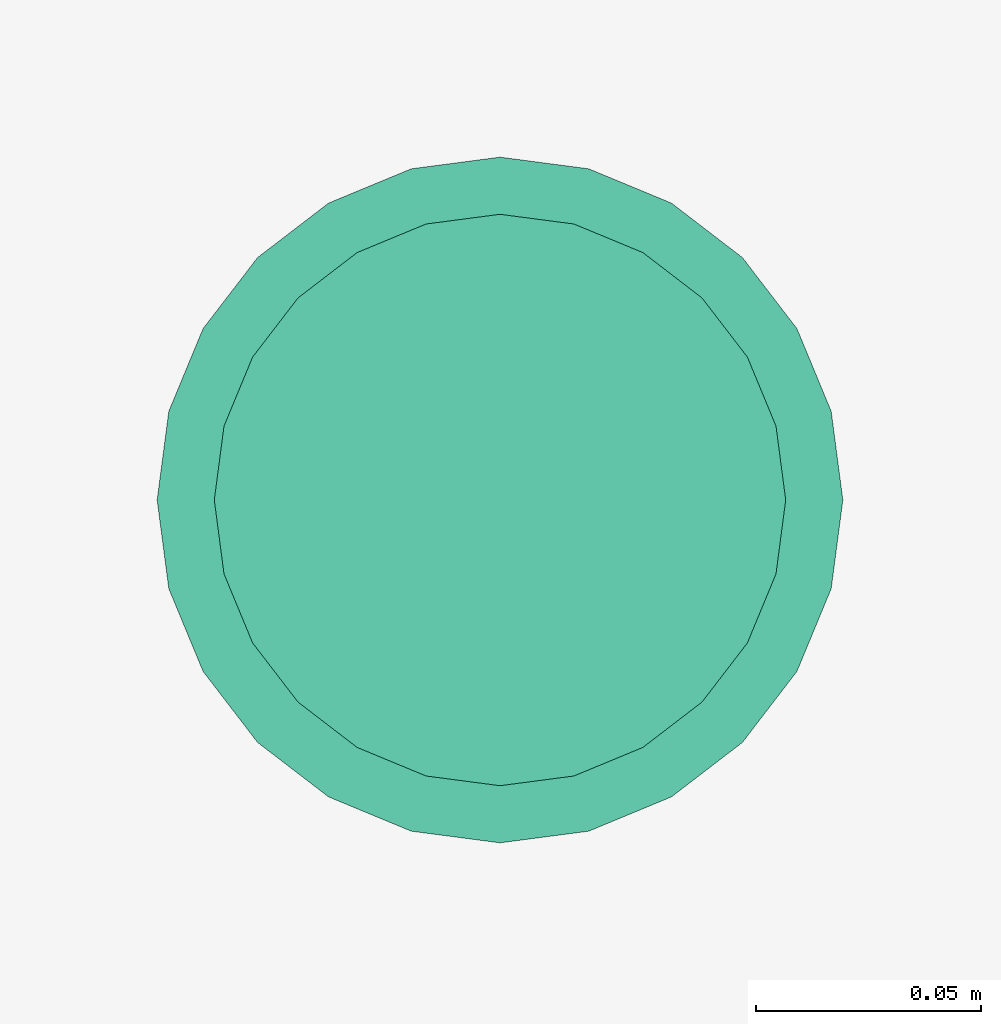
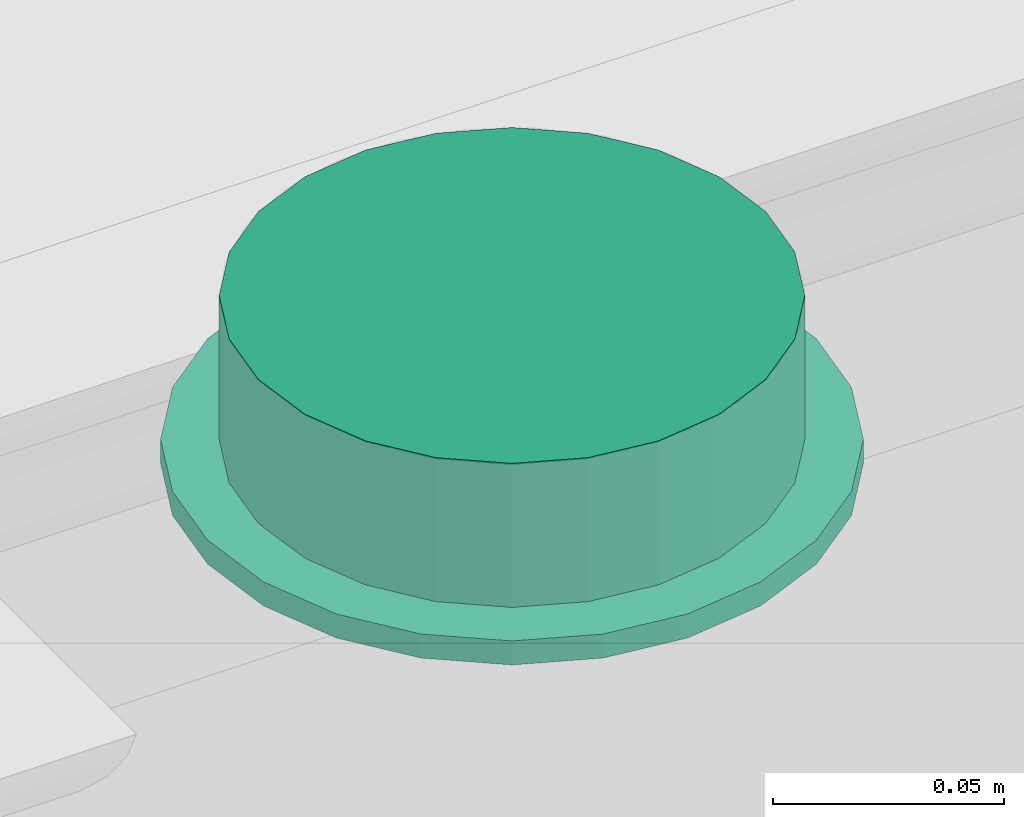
# One storey, part 47 of 81: 1 flow terminal.
"""IFC2X3 building model written with IfcOpenShell, lengths in feet."""

from ifc_helpers import new_model, entity, si_unit, converted_unit, derived_unit, direction, frame, origin, place, context, subcontext, project, spatial, faceted_brep, source, transform, mapped, material, material_list, type_object, type_shapes, element, save


model = new_model("IFC2X3")

# Units and contexts
model_context = context("Model", 3, precision=0.0001, world=origin(), true_north=direction((6.12303176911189e-17, 1.0)))
body_context = subcontext(model_context, "Body", "Model", "MODEL_VIEW")
ifc_project = project(units=[converted_unit("LENGTHUNIT", "FOOT", entity("IfcRatioMeasure", 0.3048), si_unit("LENGTHUNIT", "METRE"), dimensions=[1, 0, 0, 0, 0, 0, 0]), converted_unit("AREAUNIT", "SQUARE FOOT", entity("IfcRatioMeasure", 0.09290304), si_unit("AREAUNIT", "SQUARE_METRE"), dimensions=[2, 0, 0, 0, 0, 0, 0]), converted_unit("VOLUMEUNIT", "CUBIC FOOT", entity("IfcRatioMeasure", 0.028316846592), si_unit("VOLUMEUNIT", "CUBIC_METRE"), dimensions=[3, 0, 0, 0, 0, 0, 0]), converted_unit("PLANEANGLEUNIT", "DEGREE", entity("IfcRatioMeasure", 0.0174532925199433), si_unit("PLANEANGLEUNIT", "RADIAN"), dimensions=[0, 0, 0, 0, 0, 0, 0]), si_unit("MASSUNIT", "GRAM", prefix="KILO"), derived_unit("MASSDENSITYUNIT", [(si_unit("MASSUNIT", "GRAM", prefix="KILO"), 1), (si_unit("LENGTHUNIT", "METRE"), -3)]), derived_unit("MOMENTOFINERTIAUNIT", [(si_unit("LENGTHUNIT", "METRE"), 4)]), si_unit("TIMEUNIT", "SECOND"), si_unit("FREQUENCYUNIT", "HERTZ"), si_unit("THERMODYNAMICTEMPERATUREUNIT", "DEGREE_CELSIUS"), derived_unit("THERMALTRANSMITTANCEUNIT", [(si_unit("MASSUNIT", "GRAM", prefix="KILO"), 1), (si_unit("THERMODYNAMICTEMPERATUREUNIT", "KELVIN"), -1), (si_unit("TIMEUNIT", "SECOND"), -3)]), derived_unit("VOLUMETRICFLOWRATEUNIT", [(si_unit("LENGTHUNIT", "METRE"), 3), (si_unit("TIMEUNIT", "SECOND"), -1)]), si_unit("ELECTRICCURRENTUNIT", "AMPERE"), si_unit("ELECTRICVOLTAGEUNIT", "VOLT"), si_unit("POWERUNIT", "WATT"), si_unit("FORCEUNIT", "NEWTON"), si_unit("ILLUMINANCEUNIT", "LUX"), si_unit("LUMINOUSFLUXUNIT", "LUMEN"), si_unit("LUMINOUSINTENSITYUNIT", "CANDELA"), derived_unit("USERDEFINED", [(si_unit("MASSUNIT", "GRAM", prefix="KILO"), -1), (si_unit("LENGTHUNIT", "METRE"), -2), (si_unit("TIMEUNIT", "SECOND"), 3), (si_unit("LUMINOUSFLUXUNIT", "LUMEN"), 1)]), derived_unit("LINEARVELOCITYUNIT", [(si_unit("LENGTHUNIT", "METRE"), 1), (si_unit("TIMEUNIT", "SECOND"), -1)]), si_unit("PRESSUREUNIT", "PASCAL"), derived_unit("USERDEFINED", [(si_unit("LENGTHUNIT", "METRE"), -2), (si_unit("MASSUNIT", "GRAM", prefix="KILO"), 1), (si_unit("TIMEUNIT", "SECOND"), -2)]), derived_unit("LINEARFORCEUNIT", [(si_unit("MASSUNIT", "GRAM", prefix="KILO"), 1), (si_unit("LENGTHUNIT", "METRE"), 1), (si_unit("TIMEUNIT", "SECOND"), -2), (si_unit("LENGTHUNIT", "METRE"), -1)]), derived_unit("PLANARFORCEUNIT", [(si_unit("MASSUNIT", "GRAM", prefix="KILO"), 1), (si_unit("LENGTHUNIT", "METRE"), 1), (si_unit("TIMEUNIT", "SECOND"), -2), (si_unit("LENGTHUNIT", "METRE"), -2)])], contexts=[model_context])

# Site, building, storey
site_placement = place(None, origin())
site = spatial("IfcSite", under=ifc_project, at=site_placement, Name="Default", CompositionType="ELEMENT")
building_placement = place(site_placement, origin())
building = spatial("IfcBuilding", under=site, at=building_placement, CompositionType="ELEMENT")
storey_placement = place(building_placement, origin())
storey = spatial("IfcBuildingStorey", under=building, at=storey_placement, Name="First floor", CompositionType="ELEMENT", Elevation=0.0)

# Flow terminal
ifc_material_1 = material(Name="Default New Material")
ifc_material_2 = material(Name="Glass, White, High Luminance")
ifc_material_list_1 = material_list([ifc_material_1, ifc_material_2])
ifc_material_list_2 = material_list([ifc_material_1, ifc_material_2])
light_fixture_type = type_object("IfcLightFixtureType", Name="M_Recessed Lamp - Round - LED:Light 2", PredefinedType="NOTDEFINED", material=ifc_material_list_2)
shared_shape = source(origin(), body_context, "Body", "Brep", [
    faceted_brep([(-0.124999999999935, 0.216506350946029, 0.0208333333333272), (-0.176776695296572, 0.176776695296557, 0.0208333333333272), (-0.0833333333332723, 0.144337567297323, 0.0208333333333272), (-0.0431365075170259, 0.160987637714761, 0.0208333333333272), (-0.0647047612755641, 0.241481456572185, 0.0208333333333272), (-0.117851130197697, 0.117851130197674, 0.0208333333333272), (-0.216506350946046, 0.12499999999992, 0.0208333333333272), (-0.144337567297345, 0.0833333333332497, 0.0208333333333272), (-0.160987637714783, 0.0431365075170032, 0.0208333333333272), (-0.241481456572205, 0.0647047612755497, 0.0208333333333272), (-0.166666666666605, 0.0, 0.0208333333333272), (-0.249999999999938, 0.0, 0.0208333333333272), (-0.160987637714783, -0.0431365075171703, 0.0208333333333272), (-0.241481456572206, -0.0647047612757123, 0.0208333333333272), (-0.144337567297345, -0.0833333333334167, 0.0208333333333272), (-0.216506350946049, -0.125000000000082, 0.0208333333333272), (-0.117851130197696, -0.117851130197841, 0.0208333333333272), (-0.176776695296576, -0.176776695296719, 0.0208333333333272), (-0.0833333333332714, -0.14433756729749, 0.0208333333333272), (-0.12499999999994, -0.216506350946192, 0.0208333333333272), (-0.0431365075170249, -0.160987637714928, 0.0208333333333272), (-0.0647047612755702, -0.24148145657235, 0.0208333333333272), (0.0, -0.16666666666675, 0.0208333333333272), (0.0, -0.250000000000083, 0.0208333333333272), (0.0431365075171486, -0.160987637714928, 0.0208333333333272), (0.0647047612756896, -0.241481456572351, 0.0208333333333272), (0.0833333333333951, -0.144337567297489, 0.0208333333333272), (0.12500000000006, -0.216506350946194, 0.0208333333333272), (0.11785113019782, -0.117851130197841, 0.0208333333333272), (0.176776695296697, -0.176776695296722, 0.0208333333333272), (0.144337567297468, -0.0833333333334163, 0.0208333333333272), (0.21650635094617, -0.125000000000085, 0.0208333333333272), (0.241481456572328, -0.0647047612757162, 0.0208333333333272), (0.160987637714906, -0.0431365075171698, 0.0208333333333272), (0.250000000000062, 0.0, 0.0208333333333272), (0.166666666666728, 0.0, 0.0208333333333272), (0.241481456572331, 0.06470476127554, 0.0208333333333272), (0.160987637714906, 0.0431365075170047, 0.0208333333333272), (0.216506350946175, 0.124999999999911, 0.0208333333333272), (0.144337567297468, 0.0833333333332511, 0.0208333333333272), (0.176776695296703, 0.176776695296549, 0.0208333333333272), (0.117851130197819, 0.117851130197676, 0.0208333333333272), (0.125000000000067, 0.216506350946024, 0.0208333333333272), (0.0833333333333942, 0.144337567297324, 0.0208333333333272), (0.0647047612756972, 0.241481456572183, 0.0208333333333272), (0.0431365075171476, 0.160987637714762, 0.0208333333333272), (0.0, 0.249999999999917, 0.0208333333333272), (0.0, 0.166666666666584, 0.0208333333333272), (-0.12499999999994, -0.216506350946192, 0.0), (-0.176776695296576, -0.176776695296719, 0.0), (-0.0833333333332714, -0.14433756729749, 0.0), (-0.0431365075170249, -0.160987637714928, 0.0), (-0.0647047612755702, -0.24148145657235, 0.0), (-0.117851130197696, -0.117851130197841, 0.0), (-0.216506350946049, -0.125000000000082, 0.0), (-0.144337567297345, -0.0833333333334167, 0.0), (-0.160987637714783, -0.0431365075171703, 0.0), (-0.241481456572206, -0.0647047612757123, 0.0), (-0.166666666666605, 0.0, 0.0), (-0.249999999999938, 0.0, 0.0), (-0.160987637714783, 0.0431365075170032, 0.0), (-0.241481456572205, 0.0647047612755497, 0.0), (-0.144337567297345, 0.0833333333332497, 0.0), (-0.216506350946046, 0.12499999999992, 0.0), (-0.117851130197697, 0.117851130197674, 0.0), (-0.176776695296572, 0.176776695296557, 0.0), (-0.0833333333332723, 0.144337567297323, 0.0), (-0.124999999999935, 0.216506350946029, 0.0), (-0.0431365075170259, 0.160987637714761, 0.0), (-0.0647047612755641, 0.241481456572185, 0.0), (0.0, 0.166666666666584, 0.0), (0.0, 0.249999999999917, 0.0), (0.0431365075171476, 0.160987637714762, 0.0), (0.0647047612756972, 0.241481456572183, 0.0), (0.0833333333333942, 0.144337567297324, 0.0), (0.125000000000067, 0.216506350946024, 0.0), (0.117851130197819, 0.117851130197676, 0.0), (0.176776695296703, 0.176776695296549, 0.0), (0.144337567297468, 0.0833333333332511, 0.0), (0.216506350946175, 0.124999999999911, 0.0), (0.241481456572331, 0.06470476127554, 0.0), (0.160987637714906, 0.0431365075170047, 0.0), (0.250000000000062, 0.0, 0.0), (0.166666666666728, 0.0, 0.0), (0.241481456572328, -0.0647047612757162, 0.0), (0.160987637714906, -0.0431365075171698, 0.0), (0.21650635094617, -0.125000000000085, 0.0), (0.144337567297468, -0.0833333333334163, 0.0), (0.176776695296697, -0.176776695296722, 0.0), (0.11785113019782, -0.117851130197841, 0.0), (0.12500000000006, -0.216506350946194, 0.0), (0.0833333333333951, -0.144337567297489, 0.0), (0.0647047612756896, -0.241481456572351, 0.0), (0.0431365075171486, -0.160987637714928, 0.0), (0.0, -0.250000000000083, 0.0), (0.0, -0.16666666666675, 0.0)], [[[0, 1, 2]], [[0, 2, 3]], [[3, 4, 0]], [[2, 1, 5]], [[6, 5, 1]], [[7, 5, 6]], [[8, 7, 6]], [[8, 6, 9]], [[8, 9, 10]], [[10, 9, 11]], [[12, 10, 11]], [[12, 11, 13]], [[14, 12, 13]], [[14, 13, 15]], [[16, 14, 15]], [[15, 17, 16]], [[17, 18, 16]], [[18, 17, 19]], [[18, 19, 20]], [[21, 20, 19]], [[20, 21, 22]], [[22, 21, 23]], [[23, 24, 22]], [[24, 23, 25]], [[24, 25, 26]], [[27, 26, 25]], [[27, 28, 26]], [[27, 29, 28]], [[30, 28, 29]], [[31, 30, 29]], [[32, 30, 31]], [[33, 30, 32]], [[33, 32, 34]], [[34, 35, 33]], [[36, 35, 34]], [[36, 37, 35]], [[37, 36, 38]], [[39, 37, 38]], [[39, 38, 40]], [[39, 40, 41]], [[40, 42, 41]], [[41, 42, 43]], [[43, 42, 44]], [[44, 45, 43]], [[46, 45, 44]], [[4, 47, 46]], [[45, 46, 47]], [[4, 3, 47]], [[48, 49, 50]], [[48, 50, 51]], [[51, 52, 48]], [[50, 49, 53]], [[54, 53, 49]], [[55, 53, 54]], [[56, 55, 54]], [[56, 54, 57]], [[56, 57, 58]], [[58, 57, 59]], [[60, 58, 59]], [[60, 59, 61]], [[62, 60, 61]], [[62, 61, 63]], [[64, 62, 63]], [[63, 65, 64]], [[65, 66, 64]], [[66, 65, 67]], [[66, 67, 68]], [[69, 68, 67]], [[68, 69, 70]], [[70, 69, 71]], [[71, 72, 70]], [[72, 71, 73]], [[72, 73, 74]], [[75, 74, 73]], [[75, 76, 74]], [[75, 77, 76]], [[78, 76, 77]], [[79, 78, 77]], [[80, 78, 79]], [[81, 78, 80]], [[81, 80, 82]], [[82, 83, 81]], [[84, 83, 82]], [[84, 85, 83]], [[85, 84, 86]], [[87, 85, 86]], [[87, 86, 88]], [[87, 88, 89]], [[88, 90, 89]], [[89, 90, 91]], [[91, 90, 92]], [[92, 93, 91]], [[94, 93, 92]], [[52, 95, 94]], [[93, 94, 95]], [[52, 51, 95]], [[10, 58, 60, 8]], [[8, 60, 62, 7]], [[2, 5, 64, 66]], [[62, 64, 5, 7]], [[3, 2, 66, 68]], [[70, 47, 3, 68]], [[45, 72, 74, 43]], [[43, 74, 76, 41]], [[37, 39, 78, 81]], [[76, 78, 39, 41]], [[35, 37, 81, 83]], [[45, 47, 70, 72]], [[35, 83, 85, 33]], [[33, 85, 87, 30]], [[26, 28, 89, 91]], [[87, 89, 28, 30]], [[24, 26, 91, 93]], [[95, 22, 24, 93]], [[20, 51, 50, 18]], [[18, 50, 53, 16]], [[12, 14, 55, 56]], [[53, 55, 14, 16]], [[10, 12, 56, 58]], [[20, 22, 95, 51]], [[57, 13, 11, 59]], [[54, 15, 13, 57]], [[19, 17, 49, 48]], [[54, 49, 17, 15]], [[21, 19, 48, 52]], [[23, 21, 52, 94]], [[92, 25, 23, 94]], [[90, 27, 25, 92]], [[31, 29, 88, 86]], [[90, 88, 29, 27]], [[32, 31, 86, 84]], [[34, 32, 84, 82]], [[80, 36, 34, 82]], [[79, 38, 36, 80]], [[42, 40, 77, 75]], [[79, 77, 40, 38]], [[44, 42, 75, 73]], [[46, 44, 73, 71]], [[69, 4, 46, 71]], [[67, 0, 4, 69]], [[6, 1, 65, 63]], [[67, 65, 1, 0]], [[9, 6, 63, 61]], [[11, 9, 61, 59]]]),
    faceted_brep([(0.0431365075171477, -0.160987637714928, 0.0208333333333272), (0.0833333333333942, -0.14433756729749, 0.0208333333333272), (0.117851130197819, -0.117851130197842, 0.0208333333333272), (0.144337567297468, -0.0833333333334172, 0.0208333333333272), (0.160987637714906, -0.0431365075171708, 0.0208333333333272), (0.166666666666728, 0.0, 0.0208333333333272), (0.160987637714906, 0.0431365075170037, 0.0208333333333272), (0.144337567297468, 0.0833333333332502, 0.0208333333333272), (0.11785113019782, 0.117851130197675, 0.0208333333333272), (0.0833333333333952, 0.144337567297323, 0.0208333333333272), (0.0431365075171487, 0.160987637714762, 0.0208333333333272), (0.0, 0.166666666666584, 0.0208333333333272), (-0.0431365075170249, 0.160987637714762, 0.0208333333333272), (-0.0833333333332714, 0.144337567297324, 0.0208333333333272), (-0.117851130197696, 0.117851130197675, 0.0208333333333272), (-0.144337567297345, 0.0833333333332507, 0.0208333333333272), (-0.160987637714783, 0.0431365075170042, 0.0208333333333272), (-0.166666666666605, 0.0, 0.0208333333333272), (-0.160987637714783, -0.0431365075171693, 0.0208333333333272), (-0.144337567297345, -0.0833333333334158, 0.0208333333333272), (-0.117851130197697, -0.117851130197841, 0.0208333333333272), (-0.0833333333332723, -0.144337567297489, 0.0208333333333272), (-0.0431365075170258, -0.160987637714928, 0.0208333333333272), (0.0, -0.16666666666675, 0.0208333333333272), (0.0431365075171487, 0.160987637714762, 0.0), (0.0833333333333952, 0.144337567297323, 0.0), (0.11785113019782, 0.117851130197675, 0.0), (0.144337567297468, 0.0833333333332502, 0.0), (0.160987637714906, 0.0431365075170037, 0.0), (0.166666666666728, 0.0, 0.0), (0.160987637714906, -0.0431365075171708, 0.0), (0.144337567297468, -0.0833333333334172, 0.0), (0.117851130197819, -0.117851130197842, 0.0), (0.0833333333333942, -0.14433756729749, 0.0), (0.0431365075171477, -0.160987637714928, 0.0), (0.0, -0.16666666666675, 0.0), (-0.0431365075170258, -0.160987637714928, 0.0), (-0.0833333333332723, -0.144337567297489, 0.0), (-0.117851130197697, -0.117851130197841, 0.0), (-0.144337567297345, -0.0833333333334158, 0.0), (-0.160987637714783, -0.0431365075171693, 0.0), (-0.166666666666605, 0.0, 0.0), (-0.160987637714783, 0.0431365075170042, 0.0), (-0.144337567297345, 0.0833333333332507, 0.0), (-0.117851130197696, 0.117851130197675, 0.0), (-0.0833333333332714, 0.144337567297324, 0.0), (-0.0431365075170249, 0.160987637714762, 0.0), (0.0, 0.166666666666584, 0.0)], [[[0, 1, 2, 3, 4, 5, 6, 7, 8, 9, 10, 11, 12, 13, 14, 15, 16, 17, 18, 19, 20, 21, 22, 23]], [[24, 25, 26, 27, 28, 29, 30, 31, 32, 33, 34, 35, 36, 37, 38, 39, 40, 41, 42, 43, 44, 45, 46, 47]], [[40, 18, 17, 41]], [[39, 19, 18, 40]], [[21, 20, 38, 37]], [[39, 38, 20, 19]], [[22, 21, 37, 36]], [[23, 22, 36, 35]], [[34, 0, 23, 35]], [[33, 1, 0, 34]], [[3, 2, 32, 31]], [[33, 32, 2, 1]], [[4, 3, 31, 30]], [[5, 4, 30, 29]], [[28, 6, 5, 29]], [[27, 7, 6, 28]], [[9, 8, 26, 25]], [[27, 26, 8, 7]], [[10, 9, 25, 24]], [[11, 10, 24, 47]], [[46, 12, 11, 47]], [[45, 13, 12, 46]], [[15, 14, 44, 43]], [[45, 44, 14, 13]], [[16, 15, 43, 42]], [[17, 16, 42, 41]]]),
    faceted_brep([(0.0, -0.16666666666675, -0.104166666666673), (0.0431365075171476, -0.160987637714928, -0.104166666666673), (0.0833333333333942, -0.14433756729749, -0.104166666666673), (0.117851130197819, -0.117851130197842, -0.104166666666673), (0.144337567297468, -0.0833333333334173, -0.104166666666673), (0.160987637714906, -0.0431365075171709, -0.104166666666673), (0.166666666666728, 0.0, -0.104166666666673), (0.160987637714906, 0.0431365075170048, -0.104166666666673), (0.144337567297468, 0.0833333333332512, -0.104166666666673), (0.117851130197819, 0.117851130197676, -0.104166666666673), (0.0833333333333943, 0.144337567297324, -0.104166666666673), (0.0431365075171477, 0.160987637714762, -0.104166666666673), (0.0, 0.166666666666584, -0.104166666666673), (-0.0431365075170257, 0.160987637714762, -0.104166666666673), (-0.0833333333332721, 0.144337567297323, -0.104166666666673), (-0.117851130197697, 0.117851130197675, -0.104166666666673), (-0.144337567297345, 0.0833333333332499, -0.104166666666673), (-0.160987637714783, 0.0431365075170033, -0.104166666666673), (-0.166666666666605, 0.0, -0.104166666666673), (-0.160987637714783, -0.0431365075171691, -0.104166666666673), (-0.144337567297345, -0.0833333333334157, -0.104166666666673), (-0.117851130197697, -0.11785113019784, -0.104166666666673), (-0.0833333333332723, -0.144337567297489, -0.104166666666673), (-0.0431365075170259, -0.160987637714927, -0.104166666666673), (0.0, 0.20833333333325, -0.125000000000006), (0.0539206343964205, 0.201234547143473, -0.125000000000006), (0.104166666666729, 0.180421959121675, -0.125000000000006), (0.147313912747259, 0.147313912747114, -0.125000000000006), (0.18042195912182, 0.104166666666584, -0.125000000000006), (0.201234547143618, 0.0539206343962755, -0.125000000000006), (0.208333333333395, 0.0, -0.125000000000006), (0.201234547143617, -0.0539206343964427, -0.125000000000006), (0.180421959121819, -0.104166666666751, -0.125000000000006), (0.147313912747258, -0.147313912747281, -0.125000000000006), (0.104166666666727, -0.180421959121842, -0.125000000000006), (0.0539206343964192, -0.201234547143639, -0.125000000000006), (0.0, -0.208333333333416, -0.125000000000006), (-0.0539206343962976, -0.201234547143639, -0.125000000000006), (-0.104166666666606, -0.180421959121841, -0.125000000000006), (-0.147313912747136, -0.14731391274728, -0.125000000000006), (-0.180421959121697, -0.104166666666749, -0.125000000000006), (-0.201234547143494, -0.0539206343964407, -0.125000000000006), (-0.208333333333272, 0.0, -0.125000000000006), (-0.201234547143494, 0.0539206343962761, -0.125000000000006), (-0.180421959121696, 0.104166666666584, -0.125000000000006), (-0.147313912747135, 0.147313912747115, -0.125000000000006), (-0.104166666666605, 0.180421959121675, -0.125000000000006), (-0.0539206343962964, 0.201234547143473, -0.125000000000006), (-0.201234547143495, -0.0539206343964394, -0.104166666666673), (-0.201234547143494, -0.0539206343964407, 0.0), (-0.208333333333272, 0.0, 0.0), (-0.208333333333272, 0.0, -0.104166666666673), (-0.180421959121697, -0.104166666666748, -0.104166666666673), (-0.180421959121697, -0.104166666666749, 0.0), (-0.104166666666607, -0.18042195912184, -0.104166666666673), (-0.104166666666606, -0.180421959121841, 0.0), (-0.147313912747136, -0.14731391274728, 0.0), (-0.147313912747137, -0.147313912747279, -0.104166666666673), (-0.0539206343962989, -0.201234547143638, -0.104166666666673), (-0.0539206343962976, -0.201234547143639, 0.0), (0.0, -0.208333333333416, -0.104166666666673), (0.0, -0.208333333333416, 0.0), (0.053920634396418, -0.201234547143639, -0.104166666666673), (0.0539206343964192, -0.201234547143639, 0.0), (0.104166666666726, -0.180421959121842, -0.104166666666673), (0.104166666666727, -0.180421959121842, 0.0), (0.180421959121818, -0.104166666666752, -0.104166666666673), (0.180421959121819, -0.104166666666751, 0.0), (0.147313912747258, -0.147313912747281, 0.0), (0.147313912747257, -0.147313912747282, -0.104166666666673), (0.201234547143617, -0.0539206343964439, -0.104166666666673), (0.201234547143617, -0.0539206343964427, 0.0), (0.208333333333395, 0.0, -0.104166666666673), (0.208333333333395, 0.0, 0.0), (0.201234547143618, 0.0539206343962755, -0.104166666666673), (0.201234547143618, 0.0539206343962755, 0.0), (0.18042195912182, 0.104166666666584, -0.104166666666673), (0.18042195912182, 0.104166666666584, 0.0), (0.104166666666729, 0.180421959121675, -0.104166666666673), (0.104166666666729, 0.180421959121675, 0.0), (0.147313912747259, 0.147313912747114, 0.0), (0.147313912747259, 0.147313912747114, -0.104166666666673), (0.0539206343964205, 0.201234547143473, -0.104166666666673), (0.0539206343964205, 0.201234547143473, 0.0), (0.0, 0.20833333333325, -0.104166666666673), (0.0, 0.20833333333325, 0.0), (-0.0539206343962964, 0.201234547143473, -0.104166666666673), (-0.0539206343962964, 0.201234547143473, 0.0), (-0.104166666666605, 0.180421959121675, -0.104166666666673), (-0.104166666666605, 0.180421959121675, 0.0), (-0.180421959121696, 0.104166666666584, -0.104166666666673), (-0.180421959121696, 0.104166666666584, 0.0), (-0.147313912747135, 0.147313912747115, 0.0), (-0.147313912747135, 0.147313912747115, -0.104166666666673), (-0.201234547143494, 0.0539206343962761, -0.104166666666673), (-0.201234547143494, 0.0539206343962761, 0.0), (-0.0833333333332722, 0.144337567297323, 0.0), (-0.0431365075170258, 0.160987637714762, 0.0), (-0.117851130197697, 0.117851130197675, 0.0), (-0.144337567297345, 0.0833333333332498, 0.0), (-0.160987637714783, 0.0431365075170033, 0.0), (-0.166666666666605, 0.0, 0.0), (-0.160987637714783, -0.0431365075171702, 0.0), (-0.144337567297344, -0.0833333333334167, 0.0), (-0.117851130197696, -0.117851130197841, 0.0), (-0.0833333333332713, -0.14433756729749, 0.0), (-0.0431365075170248, -0.160987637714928, 0.0), (0.0, -0.16666666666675, 0.0), (0.0431365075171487, -0.160987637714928, 0.0), (0.0833333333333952, -0.144337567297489, 0.0), (0.11785113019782, -0.117851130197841, 0.0), (0.144337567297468, -0.0833333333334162, 0.0), (0.160987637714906, -0.0431365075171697, 0.0), (0.166666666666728, 0.0, 0.0), (0.160987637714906, 0.0431365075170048, 0.0), (0.144337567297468, 0.0833333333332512, 0.0), (0.117851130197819, 0.117851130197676, 0.0), (0.0833333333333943, 0.144337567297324, 0.0), (0.0431365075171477, 0.160987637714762, 0.0), (0.0, 0.166666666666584, 0.0)], [[[0, 1, 2, 3, 4, 5, 6, 7, 8, 9, 10, 11, 12, 13, 14, 15, 16, 17, 18, 19, 20, 21, 22, 23]], [[24, 25, 26, 27, 28, 29, 30, 31, 32, 33, 34, 35, 36, 37, 38, 39, 40, 41, 42, 43, 44, 45, 46, 47]], [[41, 48, 49, 50, 51, 42]], [[40, 52, 53, 49, 48, 41]], [[54, 55, 56, 57, 39, 38]], [[40, 39, 57, 56, 53, 52]], [[58, 59, 55, 54, 38, 37]], [[60, 61, 59, 58, 37, 36]], [[35, 62, 63, 61, 60, 36]], [[34, 64, 65, 63, 62, 35]], [[66, 67, 68, 69, 33, 32]], [[34, 33, 69, 68, 65, 64]], [[70, 71, 67, 66, 32, 31]], [[72, 73, 71, 70, 31, 30]], [[29, 74, 75, 73, 72, 30]], [[28, 76, 77, 75, 74, 29]], [[78, 79, 80, 81, 27, 26]], [[28, 27, 81, 80, 77, 76]], [[82, 83, 79, 78, 26, 25]], [[84, 85, 83, 82, 25, 24]], [[47, 86, 87, 85, 84, 24]], [[46, 88, 89, 87, 86, 47]], [[90, 91, 92, 93, 45, 44]], [[46, 45, 93, 92, 89, 88]], [[94, 95, 91, 90, 44, 43]], [[51, 50, 95, 94, 43, 42]], [[89, 92, 96]], [[89, 96, 97]], [[97, 87, 89]], [[96, 92, 98]], [[91, 98, 92]], [[99, 98, 91]], [[100, 99, 91]], [[100, 91, 95]], [[100, 95, 101]], [[101, 95, 50]], [[102, 101, 50]], [[102, 50, 49]], [[103, 102, 49]], [[103, 49, 53]], [[104, 103, 53]], [[53, 56, 104]], [[56, 105, 104]], [[105, 56, 55]], [[105, 55, 106]], [[59, 106, 55]], [[106, 59, 107]], [[107, 59, 61]], [[61, 108, 107]], [[108, 61, 63]], [[108, 63, 109]], [[65, 109, 63]], [[65, 110, 109]], [[65, 68, 110]], [[111, 110, 68]], [[67, 111, 68]], [[71, 111, 67]], [[112, 111, 71]], [[112, 71, 73]], [[73, 113, 112]], [[75, 113, 73]], [[75, 114, 113]], [[114, 75, 77]], [[115, 114, 77]], [[115, 77, 80]], [[115, 80, 116]], [[80, 79, 116]], [[116, 79, 117]], [[117, 79, 83]], [[83, 118, 117]], [[85, 118, 83]], [[87, 119, 85]], [[85, 119, 118]], [[87, 97, 119]], [[113, 6, 5, 112]], [[112, 5, 4, 111]], [[109, 110, 3, 2]], [[4, 3, 110, 111]], [[108, 109, 2, 1]], [[0, 107, 108, 1]], [[104, 105, 22, 21]], [[23, 22, 105, 106]], [[102, 103, 20, 19]], [[104, 21, 20, 103]], [[102, 19, 18, 101]], [[0, 23, 106, 107]], [[101, 18, 17, 100]], [[100, 17, 16, 99]], [[96, 98, 15, 14]], [[16, 15, 98, 99]], [[97, 96, 14, 13]], [[12, 119, 97, 13]], [[118, 11, 10, 117]], [[117, 10, 9, 116]], [[114, 115, 8, 7]], [[9, 8, 115, 116]], [[113, 114, 7, 6]], [[118, 119, 12, 11]]]),
])
type_shapes(light_fixture_type, [shared_shape])
flow_terminal_placement = place(storey_placement, frame((4.74966285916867, 28.9583333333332, 20.5416666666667), z_axis=(0.0, 0.0, -1.0), x_axis=(1.0, 0.0, 0.0)))
element("IfcFlowTerminal", 1, at=flow_terminal_placement, inside=storey, type_object=light_fixture_type, material=ifc_material_list_1, Name="M_Recessed Lamp - Round - LED:Light 2", ObjectType="M_Recessed Lamp - Round - LED:Light 2", context=body_context, shape_type="MappedRepresentation", body=[
    mapped(shared_shape, transform((0.0, 0.0, 0.0), scale=1.0)),
])

save(model, "model.ifc")
